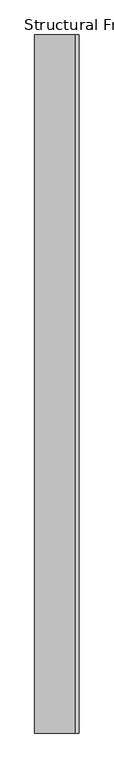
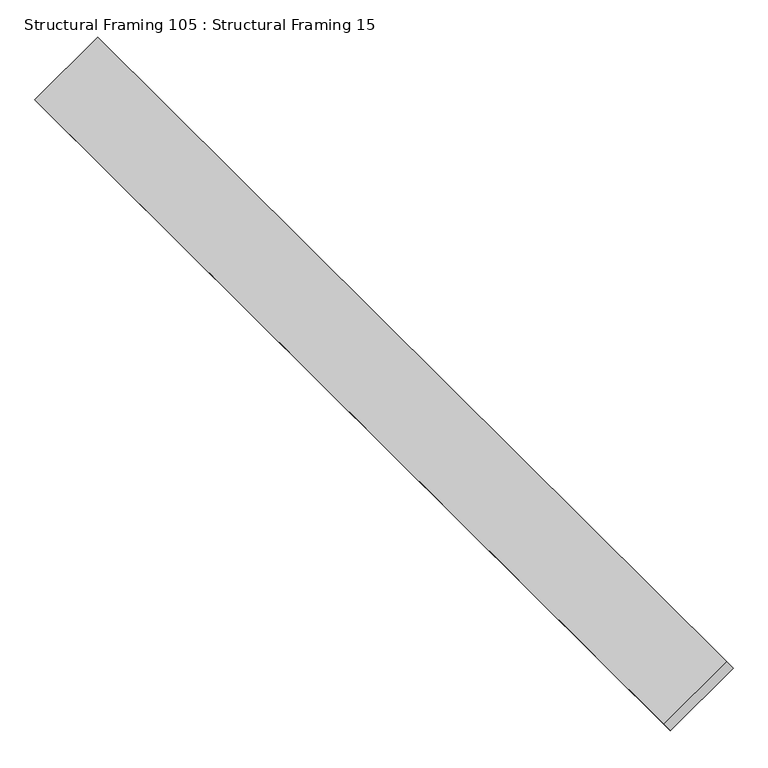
"""IFC4 building model written with IfcOpenShell, lengths in millimetres: beam geometry, Structural Framing 105 : Structural Framing 15."""

from ifc_helpers import new_model, si_unit, frame, origin, place, context, project, spatial, polyline, outline, extrude, source, transform, mapped, element, save


def structural_framing_105_structural_framing_15_bbb8b2a2(model_context):
    return source(origin(), model_context, "Body", "SweptSolid", [
        extrude(outline(polyline([(0.0, -174.3446796), (0.0, 0.0), (2470.0, 0.0), (2470.0, -174.3446796), (0.0, -174.3446796)])), frame((1206.7789073, 3925.5508021, 2800.0), z_axis=(-0.5735764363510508, 0.0, 0.8191520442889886), x_axis=(0.0, -1.0, 0.0)), (0.0, 0.0, 1.0), 25.0),
    ])


if __name__ == "__main__":
    model = new_model("IFC4")
    model_context = context("Model", 3, world=origin())
    ifc_project = project(units=[si_unit("LENGTHUNIT", "METRE", prefix="MILLI")], contexts=[model_context])
    site = spatial("IfcSite", under=ifc_project)
    building = spatial("IfcBuilding", under=site)
    placement = place(None, origin())
    structural_framing_105_structural_framing_15_shape = structural_framing_105_structural_framing_15_bbb8b2a2(model_context)
    element("IfcBeam", 1, ObjectType="Structural Framing 105 : Structural Framing 15", at=placement, inside=building, context=model_context, shape_type="MappedRepresentation", body=[
        mapped(structural_framing_105_structural_framing_15_shape, transform((0.0, 0.0, 0.0), x_axis=(1.0, 0.0, 0.0), y_axis=(0.0, 1.0, 0.0), z_axis=(0.0, 0.0, 1.0))),
    ])
    save(model, "model.ifc")
